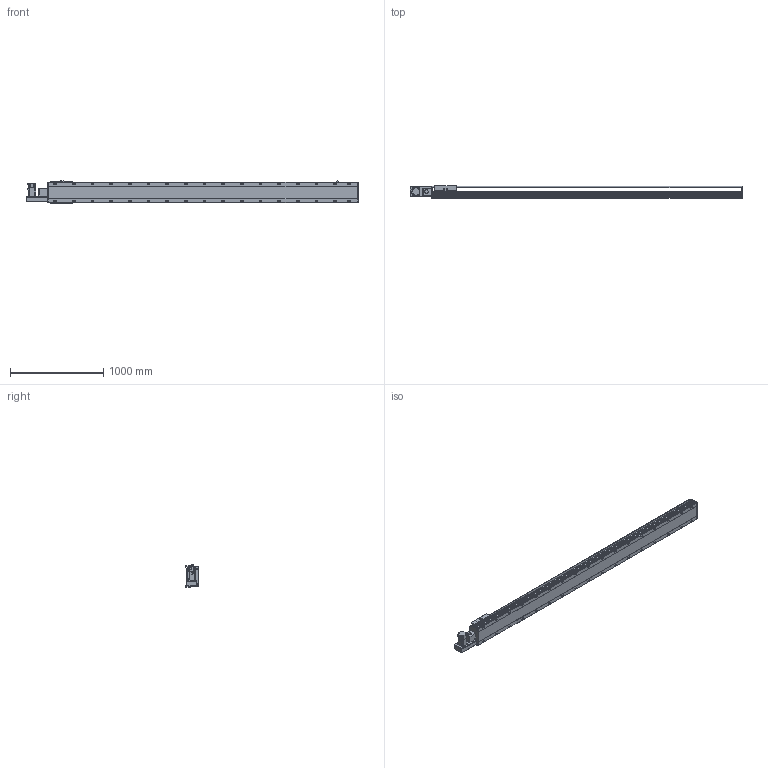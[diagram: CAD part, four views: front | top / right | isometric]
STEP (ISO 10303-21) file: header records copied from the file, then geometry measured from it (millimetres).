
FILE_DESCRIPTION(/* description */ ('STEP AP214'),/* implementation_level */ '2;1');
FILE_NAME(/* name */ 'PBS220-P40-S2950-L-T75-C1-N(0)',/* time_stamp */ '2022-06-11T09:58:22+02:00',/* author */ ('License CC BY-ND 4.0'),/* organization */ ('CADENAS'),/* preprocessor_version */ 'ST-DEVELOPER v18.102',/* originating_system */ 'PARTsolutions',/* authorisation */ ' ');
FILE_SCHEMA (('AUTOMOTIVE_DESIGN {1 0 10303 214 3 1 1}'));
Length unit declared in the file: millimetre
Products named in the file (7): PBS220-P40-S2950-L-T75-C1-N(0); PBS220_sensor; PBS220_plant; PBS220_sliser; T75-p1; PBS220T-L_motors; PBS220-S2950()_body
Assembly tree (8 placements, depth 2):
  PBS220-P40-S2950-L-T75-C1-N(0)
    PBS220_sensor  x3
    PBS220_plant
    PBS220_sliser
    T75-p1
    PBS220T-L_motors
    PBS220-S2950()_body
Bounding box: 3556 x 134 x 238.5 mm (x, y, z)
Volume: 47719399 mm3; surface area: 4334950.5 mm2
Topology: 8 solids, 8 shells, 1022 faces, 2648 edges, 1720 vertices
Faces by surface type: plane 634, cylinder 330, cone 58
Full cylindrical faces by diameter (mm): 2.013 x4, 4.5 x14, 4.917 x4, 6 x7, 6.647 x8, 8 x10, 8.376 x34, 8.5 x34, 10 x6, 14 x34, 38 x2, 40 x1, 70 x1
Entity records: 28437 total; most frequent: CARTESIAN_POINT 5086, DIRECTION 4941, ORIENTED_EDGE 4430, EDGE_CURVE 2215, AXIS2_PLACEMENT_3D 1789, VERTEX_POINT 1560, LINE 1363, VECTOR 1363
